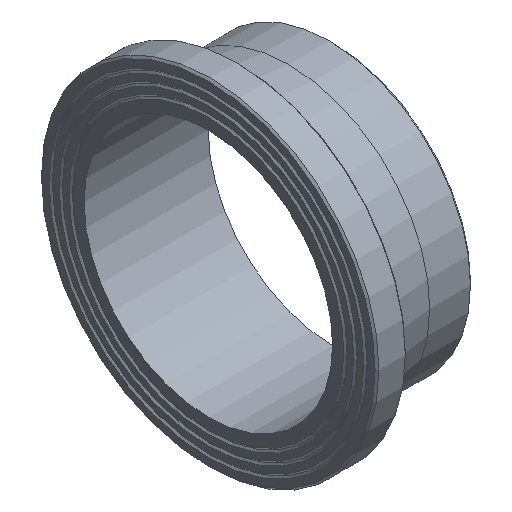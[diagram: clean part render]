
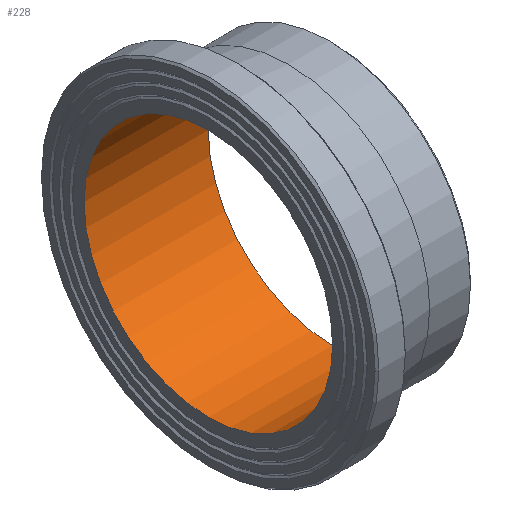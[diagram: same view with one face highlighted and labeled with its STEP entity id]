
A CAD part, isometric view. The second image highlights one B-rep face of the part: STEP entity #228.
In plain terms, the highlighted cylindrical face has radius 99.1 mm (diameter 198.2 mm), a full revolution.
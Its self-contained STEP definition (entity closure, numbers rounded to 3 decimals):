
#33=CYLINDRICAL_SURFACE('',#274,99.1);
#50=ORIENTED_EDGE('',*,*,#79,.F.);
#51=ORIENTED_EDGE('',*,*,#76,.T.);
#76=EDGE_CURVE('',#96,#96,#116,.T.);
#79=EDGE_CURVE('',#99,#99,#119,.T.);
#96=VERTEX_POINT('',#383);
#99=VERTEX_POINT('',#390);
#116=CIRCLE('',#257,99.1);
#119=CIRCLE('',#261,99.1);
#150=EDGE_LOOP('',(#50));
#151=EDGE_LOOP('',(#51));
#190=FACE_BOUND('',#150,.T.);
#191=FACE_BOUND('',#151,.T.);
#228=ADVANCED_FACE('',(#190,#191),#33,.F.);
#257=AXIS2_PLACEMENT_3D('',#382,#303,#304);
#261=AXIS2_PLACEMENT_3D('',#389,#311,#312);
#274=AXIS2_PLACEMENT_3D('',#410,#337,#338);
#303=DIRECTION('',(-1.,0.,0.));
#304=DIRECTION('',(0.,0.,1.));
#311=DIRECTION('',(-1.,0.,0.));
#312=DIRECTION('',(0.,0.,1.));
#337=DIRECTION('',(-1.,0.,0.));
#338=DIRECTION('',(0.,0.,1.));
#382=CARTESIAN_POINT('',(0.,0.,0.));
#383=CARTESIAN_POINT('',(0.,0.,99.1));
#389=CARTESIAN_POINT('',(99.,0.,0.));
#390=CARTESIAN_POINT('',(99.,0.,99.1));
#410=CARTESIAN_POINT('',(60.,0.,0.));
